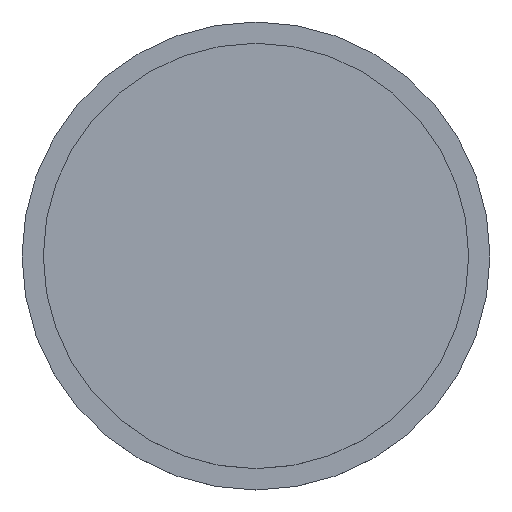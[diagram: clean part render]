
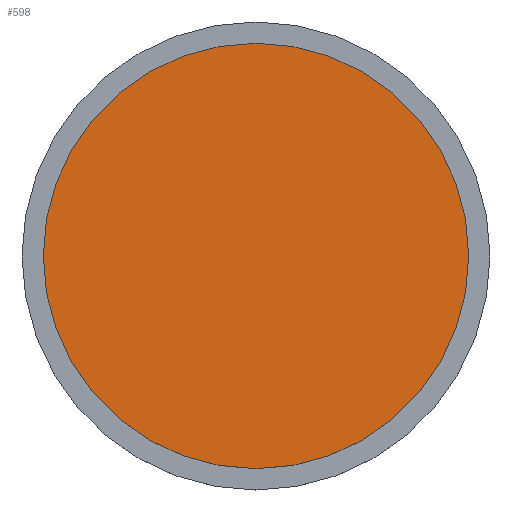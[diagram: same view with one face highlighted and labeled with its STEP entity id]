
A CAD part, top view. The second image highlights one B-rep face of the part: STEP entity #598.
In plain terms, the highlighted planar face has unit normal (0, 0, 1).
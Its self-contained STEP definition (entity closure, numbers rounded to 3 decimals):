
#294 = DIRECTION ( 'NONE',  ( 1., 0., 0. ) ) ;
#358 = AXIS2_PLACEMENT_3D ( 'NONE', #4942, #8575, #294 ) ;
#591 = ORIENTED_EDGE ( 'NONE', *, *, #10362, .T. ) ;
#598 = ADVANCED_FACE ( 'NONE', ( #3038 ), #5690, .T. ) ;
#817 = DIRECTION ( 'NONE',  ( 1., 0., 0. ) ) ;
#1105 = DIRECTION ( 'NONE',  ( 1., 0., 0. ) ) ;
#1632 = DIRECTION ( 'NONE',  ( 0., 0., 1. ) ) ;
#2027 = CARTESIAN_POINT ( 'NONE',  ( 0., 0., 14. ) ) ;
#3038 = FACE_OUTER_BOUND ( 'NONE', #4337, .T. ) ;
#3268 = VERTEX_POINT ( 'NONE', #11448 ) ;
#3513 = CARTESIAN_POINT ( 'NONE',  ( 0., 0., 14. ) ) ;
#3673 = CIRCLE ( 'NONE', #12094, 50. ) ;
#3820 = ORIENTED_EDGE ( 'NONE', *, *, #5023, .T. ) ;
#4029 = VERTEX_POINT ( 'NONE', #11734 ) ;
#4337 = EDGE_LOOP ( 'NONE', ( #3820, #591 ) ) ;
#4942 = CARTESIAN_POINT ( 'NONE',  ( 0., 0., 14. ) ) ;
#5023 = EDGE_CURVE ( 'NONE', #4029, #3268, #3673, .T. ) ;
#5690 = PLANE ( 'NONE',  #358 ) ;
#5762 = DIRECTION ( 'NONE',  ( 0., 0., 1. ) ) ;
#8575 = DIRECTION ( 'NONE',  ( 0., 0., 1. ) ) ;
#8834 = AXIS2_PLACEMENT_3D ( 'NONE', #3513, #1632, #817 ) ;
#10362 = EDGE_CURVE ( 'NONE', #3268, #4029, #11573, .T. ) ;
#11448 = CARTESIAN_POINT ( 'NONE',  ( 50., 0., 14. ) ) ;
#11573 = CIRCLE ( 'NONE', #8834, 50. ) ;
#11734 = CARTESIAN_POINT ( 'NONE',  ( -50., 0., 14. ) ) ;
#12094 = AXIS2_PLACEMENT_3D ( 'NONE', #2027, #5762, #1105 ) ;
